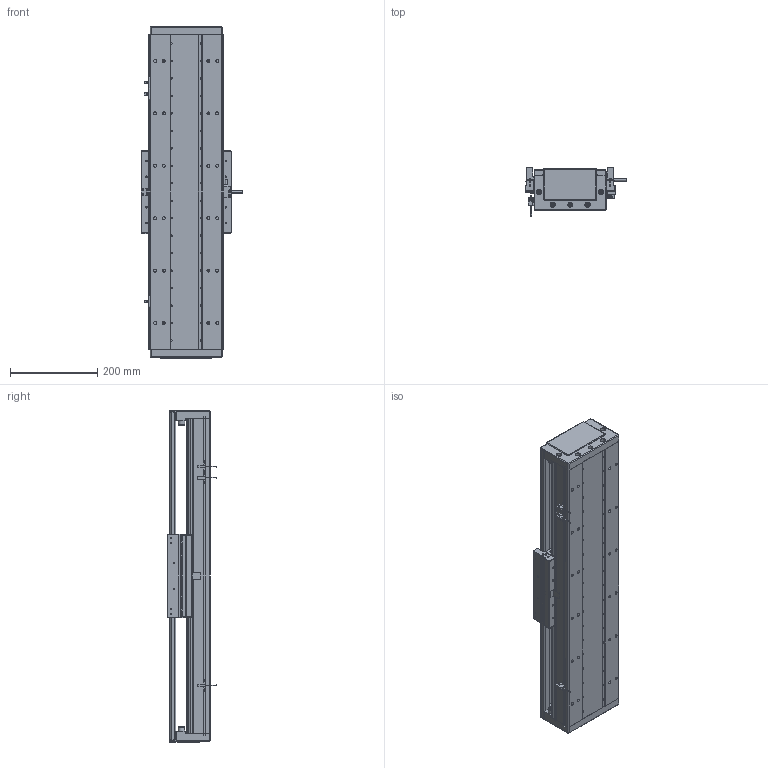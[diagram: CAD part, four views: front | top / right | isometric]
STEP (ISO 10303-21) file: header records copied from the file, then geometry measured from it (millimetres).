
FILE_DESCRIPTION (( 'STEP AP203' ), '1' );
FILE_NAME ('DA-C165-C2-T480-C010-0.2 直线电机.STEP', '2023-05-11T07:29:34', ( '微软用户' ), ( '微软中国' ), 'SwSTEP 2.0', 'SolidWorks 2019', '' );
FILE_SCHEMA (( 'CONFIG_CONTROL_DESIGN' ));
Length unit declared in the file: millimetre
Products named in the file (15): 复件 CKM02-W075-C1C2-TP-3.0 一体电机-C2^DA-C165-C2-T-C010-0.2-N 直线电机; 复件 XD-U-02L 磁栅尺^DA-C165-C2-T-C010-0.2-N 直线电机_T; 复件 DA95-HXJ-00 缓冲橡胶^DA-C165-C2-T-C010-0.2-N 直线电机; 复件 DA165-T-002-00 盖板^DA-C165-C2-T-C010-0.2-N 直线电机_0840-002-00; 葩璃 DA95-GT-T-00^IU-CU165-L 菁釱絳寢_T; 复件 六角薄螺母 M3^DA-C165-C2-T-C010-0.2-N 直线电机_GB_FASTENER_NUT_STNAB M3-C; 珨极趙賑雄怢啣wf-C2; IU-CU165-L-00 菁釱_L720; 葩璃 CKM01-W075-TRL^DA-C165-C2-T-C010-0.2-N 眻盄萇儂; 葩璃 PM-T45^DA-C165-C2-T-C010-0.2-N 眻盄萇儂; DA-C165-C2-T480-C010-0.2 眻盄萇儂; IU-CU165-L 菁釱絳寢; 复件 DMA-010-0.2 读数头^DA-C165-C2-T-C010-0.2-N 直线电机; 复件 DA165-DG-H-N-00 端盖^DA-C165-C2-T-C010-0.2-N 直线电机; 复件 DA165-GYP-00 光电感应片^DA-C165-C2-T-C010-0.2-N 直线电机
Assembly tree (28 placements, depth 3):
  DA-C165-C2-T480-C010-0.2 眻盄萇儂
    IU-CU165-L 菁釱絳寢
      IU-CU165-L-00 菁釱_L720
      葩璃 DA95-GT-T-00^IU-CU165-L 菁釱絳寢_T  x4
    复件 DA165-DG-H-N-00 端盖^DA-C165-C2-T-C010-0.2-N 直线电机  x2
    复件 DA95-HXJ-00 缓冲橡胶^DA-C165-C2-T-C010-0.2-N 直线电机  x4
    复件 DA165-T-002-00 盖板^DA-C165-C2-T-C010-0.2-N 直线电机_0840-002-00
    复件 XD-U-02L 磁栅尺^DA-C165-C2-T-C010-0.2-N 直线电机_T
    葩璃 PM-T45^DA-C165-C2-T-C010-0.2-N 眻盄萇儂  x3
    葩璃 CKM01-W075-TRL^DA-C165-C2-T-C010-0.2-N 眻盄萇儂
    复件 DA165-GYP-00 光电感应片^DA-C165-C2-T-C010-0.2-N 直线电机
    复件 DMA-010-0.2 读数头^DA-C165-C2-T-C010-0.2-N 直线电机
    复件 CKM02-W075-C1C2-TP-3.0 一体电机-C2^DA-C165-C2-T-C010-0.2-N 直线电机
    复件 六角薄螺母 M3^DA-C165-C2-T-C010-0.2-N 直线电机_GB_FASTENER_NUT_STNAB M3-C  x6
    珨极趙賑雄怢啣wf-C2
Bounding box: 233 x 111.45 x 760 mm (x, y, z)
Volume: 6139008.2 mm3; surface area: 1615313.2 mm2
Topology: 66 solids, 66 shells, 2920 faces, 7836 edges, 4891 vertices
Faces by surface type: cylinder 1407, plane 1049, cone 406, torus 54, sphere 4
Entity records: 84569 total; most frequent: CARTESIAN_POINT 18594, DIRECTION 13698, ORIENTED_EDGE 13146, EDGE_CURVE 6573, AXIS2_PLACEMENT_3D 5121, VERTEX_POINT 4227, LINE 3456, VECTOR 3456
